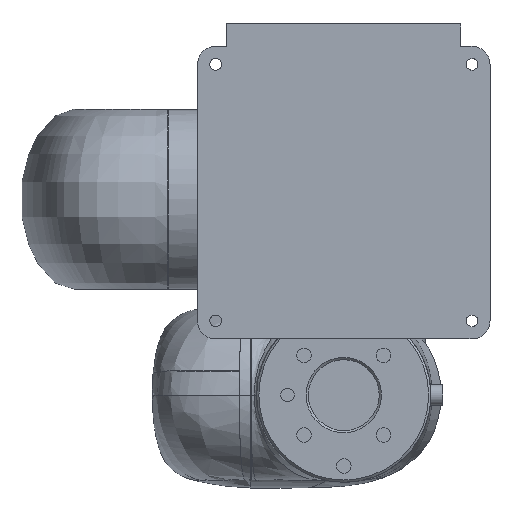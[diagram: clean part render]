
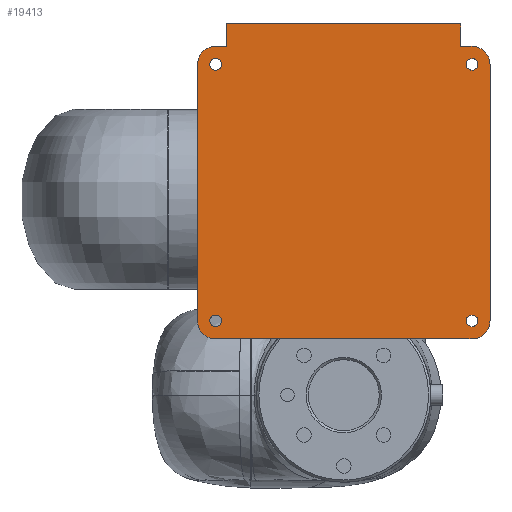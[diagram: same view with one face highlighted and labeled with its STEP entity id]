
A CAD part, front view. The second image highlights one B-rep face of the part: STEP entity #19413.
In plain terms, the highlighted planar face has unit normal (0, -1, 0).
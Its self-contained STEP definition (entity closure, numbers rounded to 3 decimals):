
#59 = CIRCLE ( 'NONE', #15186, 8. ) ;
#64 = DIRECTION ( 'NONE',  ( 0., -1., 0. ) ) ;
#390 = CARTESIAN_POINT ( 'NONE',  ( -57., -173., 62.6 ) ) ;
#470 = CIRCLE ( 'NONE', #16865, 8. ) ;
#1083 = EDGE_CURVE ( 'NONE', #47096, #47096, #28434, .T. ) ;
#1644 = ORIENTED_EDGE ( 'NONE', *, *, #12622, .F. ) ;
#1759 = PLANE ( 'NONE',  #10194 ) ;
#2072 = VERTEX_POINT ( 'NONE', #40265 ) ;
#2519 = CIRCLE ( 'NONE', #47468, 8. ) ;
#2608 = CIRCLE ( 'NONE', #16319, 2.6 ) ;
#2797 = VECTOR ( 'NONE', #34293, 1000. ) ;
#2889 = ORIENTED_EDGE ( 'NONE', *, *, #43188, .F. ) ;
#3968 = EDGE_CURVE ( 'NONE', #28153, #35961, #35592, .T. ) ;
#4048 = EDGE_CURVE ( 'NONE', #35127, #19295, #30186, .T. ) ;
#4397 = DIRECTION ( 'NONE',  ( 1., 0., 0. ) ) ;
#4403 = EDGE_CURVE ( 'NONE', #27173, #7941, #16837, .T. ) ;
#4961 = DIRECTION ( 'NONE',  ( 0., 1., 0. ) ) ;
#5090 = VECTOR ( 'NONE', #27182, 1000. ) ;
#5096 = FACE_OUTER_BOUND ( 'NONE', #41634, .T. ) ;
#5410 = CARTESIAN_POINT ( 'NONE',  ( -65., -173., 60. ) ) ;
#5804 = CARTESIAN_POINT ( 'NONE',  ( -65., -173., -54. ) ) ;
#5835 = LINE ( 'NONE', #11572, #37207 ) ;
#5914 = ORIENTED_EDGE ( 'NONE', *, *, #44695, .F. ) ;
#7307 = CARTESIAN_POINT ( 'NONE',  ( 57., -173., 62.6 ) ) ;
#7471 = CARTESIAN_POINT ( 'NONE',  ( -57., -173., -51.4 ) ) ;
#7797 = VECTOR ( 'NONE', #44223, 1000. ) ;
#7941 = VERTEX_POINT ( 'NONE', #21638 ) ;
#8172 = DIRECTION ( 'NONE',  ( -1., 0., 0. ) ) ;
#8575 = CARTESIAN_POINT ( 'NONE',  ( -57., -173., -54. ) ) ;
#8656 = CARTESIAN_POINT ( 'NONE',  ( 57., -173., -54. ) ) ;
#8727 = CARTESIAN_POINT ( 'NONE',  ( -57., -173., 68. ) ) ;
#8990 = DIRECTION ( 'NONE',  ( 0., 0., -1. ) ) ;
#9796 = VERTEX_POINT ( 'NONE', #22664 ) ;
#9955 = FACE_BOUND ( 'NONE', #26593, .T. ) ;
#10194 = AXIS2_PLACEMENT_3D ( 'NONE', #40244, #32112, #44433 ) ;
#11127 = ORIENTED_EDGE ( 'NONE', *, *, #21525, .F. ) ;
#11350 = CARTESIAN_POINT ( 'NONE',  ( -52., -173., 0. ) ) ;
#11524 = VERTEX_POINT ( 'NONE', #7471 ) ;
#11572 = CARTESIAN_POINT ( 'NONE',  ( 0., -173., -62. ) ) ;
#11659 = CARTESIAN_POINT ( 'NONE',  ( 57., -173., -62. ) ) ;
#11832 = CARTESIAN_POINT ( 'NONE',  ( 0., -173., 78. ) ) ;
#11986 = DIRECTION ( 'NONE',  ( 0., 0., 1. ) ) ;
#12622 = EDGE_CURVE ( 'NONE', #11524, #11524, #26396, .T. ) ;
#12832 = CARTESIAN_POINT ( 'NONE',  ( 57., -173., -54. ) ) ;
#12964 = LINE ( 'NONE', #34854, #26199 ) ;
#15041 = CARTESIAN_POINT ( 'NONE',  ( 0., -173., 68. ) ) ;
#15186 = AXIS2_PLACEMENT_3D ( 'NONE', #33837, #38395, #30286 ) ;
#15446 = LINE ( 'NONE', #15041, #2797 ) ;
#15673 = EDGE_LOOP ( 'NONE', ( #1644 ) ) ;
#15863 = EDGE_CURVE ( 'NONE', #35523, #35127, #5835, .T. ) ;
#16319 = AXIS2_PLACEMENT_3D ( 'NONE', #34478, #34973, #30759 ) ;
#16837 = LINE ( 'NONE', #24866, #41036 ) ;
#16865 = AXIS2_PLACEMENT_3D ( 'NONE', #27901, #4961, #31947 ) ;
#16976 = CARTESIAN_POINT ( 'NONE',  ( 65., -173., 60. ) ) ;
#16990 = DIRECTION ( 'NONE',  ( 0., 1., 0. ) ) ;
#17212 = CIRCLE ( 'NONE', #24014, 2.6 ) ;
#17431 = DIRECTION ( 'NONE',  ( 0., 0., -1. ) ) ;
#17622 = ORIENTED_EDGE ( 'NONE', *, *, #15863, .F. ) ;
#18663 = CARTESIAN_POINT ( 'NONE',  ( 52., -173., 78. ) ) ;
#18893 = LINE ( 'NONE', #36704, #30378 ) ;
#18918 = DIRECTION ( 'NONE',  ( 0., 0., 1. ) ) ;
#19097 = EDGE_CURVE ( 'NONE', #9796, #21302, #12964, .T. ) ;
#19295 = VERTEX_POINT ( 'NONE', #5804 ) ;
#19396 = DIRECTION ( 'NONE',  ( 0., -1., 0. ) ) ;
#19413 = ADVANCED_FACE ( 'NONE', ( #42547, #9955, #26845, #49798, #5096 ), #1759, .F. ) ;
#19785 = ORIENTED_EDGE ( 'NONE', *, *, #1083, .F. ) ;
#19907 = VERTEX_POINT ( 'NONE', #7307 ) ;
#20463 = AXIS2_PLACEMENT_3D ( 'NONE', #40151, #16990, #32352 ) ;
#20577 = DIRECTION ( 'NONE',  ( 0., 0., 1. ) ) ;
#20897 = AXIS2_PLACEMENT_3D ( 'NONE', #8575, #19396, #11986 ) ;
#21302 = VERTEX_POINT ( 'NONE', #39764 ) ;
#21525 = EDGE_CURVE ( 'NONE', #35961, #9796, #18893, .T. ) ;
#21638 = CARTESIAN_POINT ( 'NONE',  ( 65., -173., -54. ) ) ;
#21985 = CARTESIAN_POINT ( 'NONE',  ( -52., -173., 78. ) ) ;
#22664 = CARTESIAN_POINT ( 'NONE',  ( 52., -173., 68. ) ) ;
#23026 = ORIENTED_EDGE ( 'NONE', *, *, #4403, .F. ) ;
#24014 = AXIS2_PLACEMENT_3D ( 'NONE', #42230, #64, #18918 ) ;
#24808 = CARTESIAN_POINT ( 'NONE',  ( -65., -173., 0. ) ) ;
#24866 = CARTESIAN_POINT ( 'NONE',  ( 65., -173., 0. ) ) ;
#26199 = VECTOR ( 'NONE', #46146, 1000. ) ;
#26396 = CIRCLE ( 'NONE', #20897, 2.6 ) ;
#26593 = EDGE_LOOP ( 'NONE', ( #31659 ) ) ;
#26845 = FACE_BOUND ( 'NONE', #31429, .T. ) ;
#27173 = VERTEX_POINT ( 'NONE', #16976 ) ;
#27182 = DIRECTION ( 'NONE',  ( 0., 0., 1. ) ) ;
#27901 = CARTESIAN_POINT ( 'NONE',  ( -57., -173., 60. ) ) ;
#28153 = VERTEX_POINT ( 'NONE', #21985 ) ;
#28434 = CIRCLE ( 'NONE', #28827, 2.6 ) ;
#28827 = AXIS2_PLACEMENT_3D ( 'NONE', #12832, #43698, #20577 ) ;
#28858 = ORIENTED_EDGE ( 'NONE', *, *, #36090, .F. ) ;
#30186 = CIRCLE ( 'NONE', #20463, 8. ) ;
#30286 = DIRECTION ( 'NONE',  ( 0., 0., -1. ) ) ;
#30378 = VECTOR ( 'NONE', #17431, 1000. ) ;
#30591 = EDGE_LOOP ( 'NONE', ( #5914 ) ) ;
#30759 = DIRECTION ( 'NONE',  ( 0., 0., 1. ) ) ;
#30853 = EDGE_CURVE ( 'NONE', #19295, #39092, #31910, .T. ) ;
#31125 = ORIENTED_EDGE ( 'NONE', *, *, #3968, .F. ) ;
#31429 = EDGE_LOOP ( 'NONE', ( #19785 ) ) ;
#31659 = ORIENTED_EDGE ( 'NONE', *, *, #38714, .F. ) ;
#31910 = LINE ( 'NONE', #24808, #7797 ) ;
#31921 = DIRECTION ( 'NONE',  ( 0., 1., 0. ) ) ;
#31947 = DIRECTION ( 'NONE',  ( 0., 0., -1. ) ) ;
#32112 = DIRECTION ( 'NONE',  ( 0., 1., 0. ) ) ;
#32332 = ORIENTED_EDGE ( 'NONE', *, *, #30853, .F. ) ;
#32352 = DIRECTION ( 'NONE',  ( 0., 0., -1. ) ) ;
#32959 = EDGE_CURVE ( 'NONE', #21302, #27173, #59, .T. ) ;
#33837 = CARTESIAN_POINT ( 'NONE',  ( 57., -173., 60. ) ) ;
#34293 = DIRECTION ( 'NONE',  ( 1., 0., 0. ) ) ;
#34478 = CARTESIAN_POINT ( 'NONE',  ( -57., -173., 60. ) ) ;
#34779 = CARTESIAN_POINT ( 'NONE',  ( 57., -173., -51.4 ) ) ;
#34793 = CARTESIAN_POINT ( 'NONE',  ( -57., -173., -62. ) ) ;
#34854 = CARTESIAN_POINT ( 'NONE',  ( 0., -173., 68. ) ) ;
#34973 = DIRECTION ( 'NONE',  ( 0., -1., 0. ) ) ;
#35127 = VERTEX_POINT ( 'NONE', #34793 ) ;
#35149 = ORIENTED_EDGE ( 'NONE', *, *, #4048, .F. ) ;
#35523 = VERTEX_POINT ( 'NONE', #11659 ) ;
#35592 = LINE ( 'NONE', #11832, #45280 ) ;
#35737 = ORIENTED_EDGE ( 'NONE', *, *, #48811, .F. ) ;
#35961 = VERTEX_POINT ( 'NONE', #18663 ) ;
#36090 = EDGE_CURVE ( 'NONE', #39092, #47593, #470, .T. ) ;
#36704 = CARTESIAN_POINT ( 'NONE',  ( 52., -173., 0. ) ) ;
#37207 = VECTOR ( 'NONE', #8172, 1000. ) ;
#37340 = ORIENTED_EDGE ( 'NONE', *, *, #19097, .F. ) ;
#37699 = LINE ( 'NONE', #11350, #5090 ) ;
#38395 = DIRECTION ( 'NONE',  ( 0., 1., 0. ) ) ;
#38714 = EDGE_CURVE ( 'NONE', #19907, #19907, #17212, .T. ) ;
#38783 = EDGE_CURVE ( 'NONE', #47593, #2072, #15446, .T. ) ;
#39092 = VERTEX_POINT ( 'NONE', #5410 ) ;
#39764 = CARTESIAN_POINT ( 'NONE',  ( 57., -173., 68. ) ) ;
#40151 = CARTESIAN_POINT ( 'NONE',  ( -57., -173., -54. ) ) ;
#40244 = CARTESIAN_POINT ( 'NONE',  ( 0., -173., 0. ) ) ;
#40265 = CARTESIAN_POINT ( 'NONE',  ( -52., -173., 68. ) ) ;
#41036 = VECTOR ( 'NONE', #43949, 1000. ) ;
#41634 = EDGE_LOOP ( 'NONE', ( #49013, #28858, #32332, #35149, #17622, #35737, #23026, #45745, #37340, #11127, #31125, #2889 ) ) ;
#42230 = CARTESIAN_POINT ( 'NONE',  ( 57., -173., 60. ) ) ;
#42547 = FACE_BOUND ( 'NONE', #30591, .T. ) ;
#43188 = EDGE_CURVE ( 'NONE', #2072, #28153, #37699, .T. ) ;
#43698 = DIRECTION ( 'NONE',  ( 0., -1., 0. ) ) ;
#43949 = DIRECTION ( 'NONE',  ( 0., 0., -1. ) ) ;
#44223 = DIRECTION ( 'NONE',  ( 0., 0., 1. ) ) ;
#44433 = DIRECTION ( 'NONE',  ( 0., 0., 1. ) ) ;
#44695 = EDGE_CURVE ( 'NONE', #48286, #48286, #2608, .T. ) ;
#45280 = VECTOR ( 'NONE', #4397, 1000. ) ;
#45745 = ORIENTED_EDGE ( 'NONE', *, *, #32959, .F. ) ;
#46146 = DIRECTION ( 'NONE',  ( 1., 0., 0. ) ) ;
#47096 = VERTEX_POINT ( 'NONE', #34779 ) ;
#47468 = AXIS2_PLACEMENT_3D ( 'NONE', #8656, #31921, #8990 ) ;
#47593 = VERTEX_POINT ( 'NONE', #8727 ) ;
#48286 = VERTEX_POINT ( 'NONE', #390 ) ;
#48811 = EDGE_CURVE ( 'NONE', #7941, #35523, #2519, .T. ) ;
#49013 = ORIENTED_EDGE ( 'NONE', *, *, #38783, .F. ) ;
#49798 = FACE_BOUND ( 'NONE', #15673, .T. ) ;
